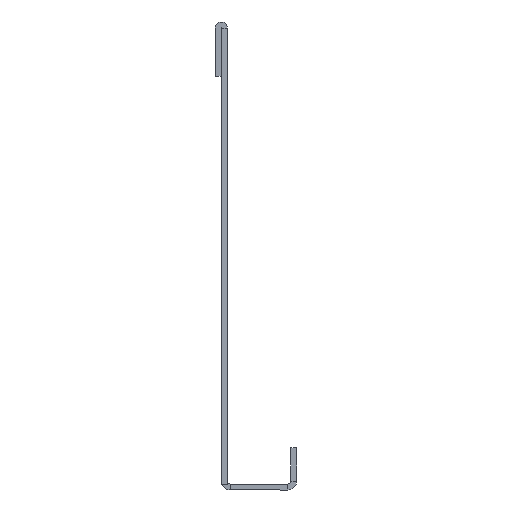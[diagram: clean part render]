
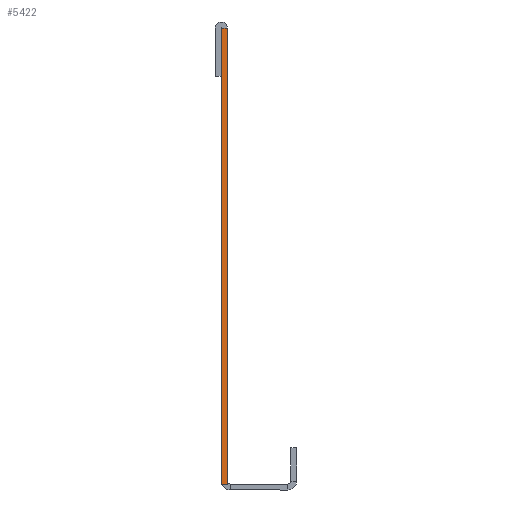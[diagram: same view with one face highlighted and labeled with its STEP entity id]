
A CAD part, left-side view. The second image highlights one B-rep face of the part: STEP entity #5422.
In plain terms, the highlighted planar face has unit normal (-1, 0, 0).
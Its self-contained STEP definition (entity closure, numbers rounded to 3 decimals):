
#248 = CARTESIAN_POINT ( 'NONE',  ( -400., 0., -53.325 ) ) ;
#494 = EDGE_CURVE ( 'NONE', #8247, #6888, #1410, .T. ) ;
#1045 = EDGE_CURVE ( 'NONE', #8247, #8143, #7325, .T. ) ;
#1236 = DIRECTION ( 'NONE',  ( -1., 0., 0. ) ) ;
#1410 = LINE ( 'NONE', #9850, #12267 ) ;
#1663 = EDGE_CURVE ( 'NONE', #6888, #5060, #2954, .T. ) ;
#1980 = ORIENTED_EDGE ( 'NONE', *, *, #12962, .F. ) ;
#2271 = DIRECTION ( 'NONE',  ( 0., 0., 1. ) ) ;
#2291 = CARTESIAN_POINT ( 'NONE',  ( -400., -1.35, -53.325 ) ) ;
#2954 = LINE ( 'NONE', #11213, #5166 ) ;
#2990 = ORIENTED_EDGE ( 'NONE', *, *, #1663, .F. ) ;
#3209 = CARTESIAN_POINT ( 'NONE',  ( -400., -1.35, 51.925 ) ) ;
#3668 = ORIENTED_EDGE ( 'NONE', *, *, #494, .F. ) ;
#3760 = AXIS2_PLACEMENT_3D ( 'NONE', #5569, #1236, #8840 ) ;
#4004 = ORIENTED_EDGE ( 'NONE', *, *, #1045, .T. ) ;
#4096 = CARTESIAN_POINT ( 'NONE',  ( -400., 0., 51.925 ) ) ;
#4454 = PLANE ( 'NONE',  #3760 ) ;
#4783 = VECTOR ( 'NONE', #2271, 1000. ) ;
#5060 = VERTEX_POINT ( 'NONE', #7132 ) ;
#5166 = VECTOR ( 'NONE', #13397, 1000. ) ;
#5422 = ADVANCED_FACE ( 'NONE', ( #11626 ), #4454, .T. ) ;
#5569 = CARTESIAN_POINT ( 'NONE',  ( -400., -1.35, -53.325 ) ) ;
#6601 = EDGE_LOOP ( 'NONE', ( #1980, #2990, #3668, #4004 ) ) ;
#6888 = VERTEX_POINT ( 'NONE', #248 ) ;
#7132 = CARTESIAN_POINT ( 'NONE',  ( -400., 0., 51.925 ) ) ;
#7175 = VECTOR ( 'NONE', #11663, 1000. ) ;
#7325 = LINE ( 'NONE', #2291, #4783 ) ;
#8143 = VERTEX_POINT ( 'NONE', #3209 ) ;
#8247 = VERTEX_POINT ( 'NONE', #9919 ) ;
#8840 = DIRECTION ( 'NONE',  ( 0., 0., 1. ) ) ;
#9831 = DIRECTION ( 'NONE',  ( 0., 1., 0. ) ) ;
#9850 = CARTESIAN_POINT ( 'NONE',  ( -400., -1.35, -53.325 ) ) ;
#9919 = CARTESIAN_POINT ( 'NONE',  ( -400., -1.35, -53.325 ) ) ;
#10436 = LINE ( 'NONE', #4096, #7175 ) ;
#11213 = CARTESIAN_POINT ( 'NONE',  ( -400., 0., -53.325 ) ) ;
#11626 = FACE_OUTER_BOUND ( 'NONE', #6601, .T. ) ;
#11663 = DIRECTION ( 'NONE',  ( 0., -1., 0. ) ) ;
#12267 = VECTOR ( 'NONE', #9831, 1000. ) ;
#12962 = EDGE_CURVE ( 'NONE', #5060, #8143, #10436, .T. ) ;
#13397 = DIRECTION ( 'NONE',  ( 0., 0., 1. ) ) ;
